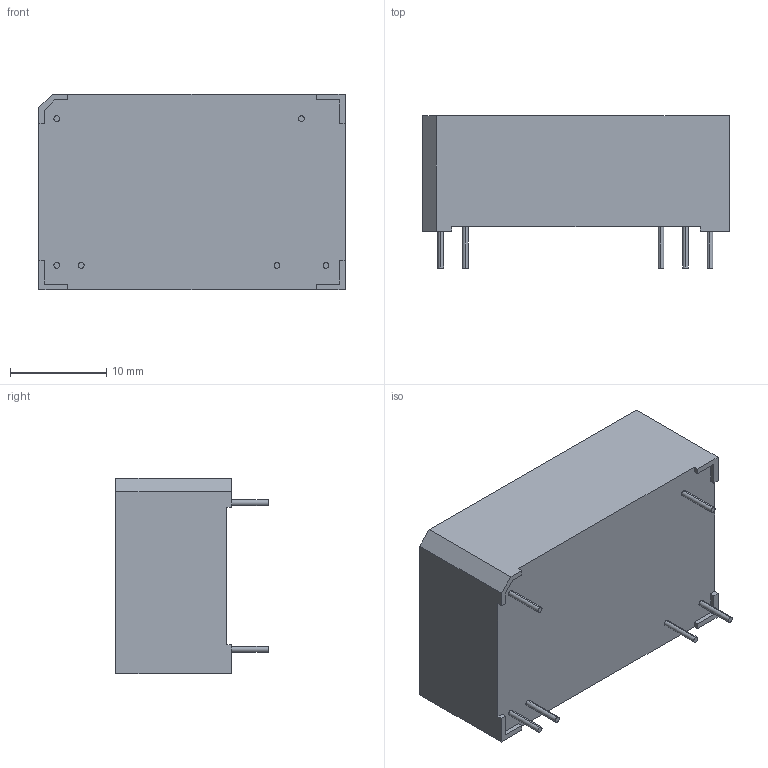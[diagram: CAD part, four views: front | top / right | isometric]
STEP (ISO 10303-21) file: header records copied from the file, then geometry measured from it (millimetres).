
FILE_DESCRIPTION (( 'STEP AP203' ), '1' );
FILE_NAME ('THB 6 Dual Output.STEP', '2020-11-13T08:10:20', ( '' ), ( '' ), 'SwSTEP 2.0', 'SolidWorks 2020', '' );
FILE_SCHEMA (( 'CONFIG_CONTROL_DESIGN' ));
Length unit declared in the file: millimetre
Products named in the file (1): THB 6 Dual Output
Bounding box: 31.8 x 15.8 x 20.3 mm (x, y, z)
Volume: 7426 mm3; surface area: 2549.9 mm2
Topology: 1 solids, 1 shells, 46 faces, 114 edges, 76 vertices
Faces by surface type: plane 34, cylinder 12
Entity records: 1439 total; most frequent: CARTESIAN_POINT 237, DIRECTION 232, ORIENTED_EDGE 228, EDGE_CURVE 114, VECTOR 90, LINE 90, VERTEX_POINT 76, AXIS2_PLACEMENT_3D 71
